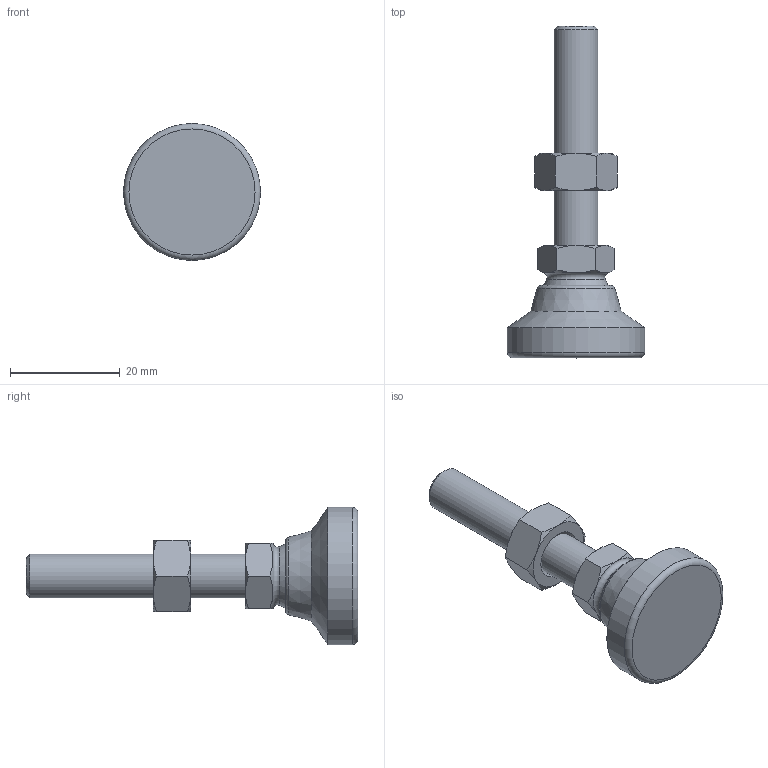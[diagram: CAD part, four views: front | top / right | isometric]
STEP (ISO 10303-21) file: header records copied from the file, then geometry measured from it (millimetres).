
FILE_DESCRIPTION( ( 'STEP AP214' ), ' ' );
FILE_NAME( 'O:/ganter_2015/teil_2/2_5/gn343_2/gn343_2_ks/Levelling foot with threaded stud GN 343.2-25-M8-40-KS-(0).stp', '2015-10-26T09:09:15', ( '' ), ( '' ), ' ', 'PARTsolutions', ' ' );
FILE_SCHEMA( ( 'AUTOMOTIVE_DESIGN { 1 0 10303 214 1 1 1 1 }' ) );
Length unit declared in the file: millimetre
Products named in the file (4): Levelling foot with threaded stud GN 343.2-25-M8-40-KS-(0); _Levelling foot with threaded stud GN 343.2-25-M8-40-KS-(0)_foot; _Gelenkfuss mit Schraube GN 343.2-25-M8-40-KS-(0)_screw; _GLevelling foot with threaded stud GN 343.2-25-M8-40-KS-(0)_nut
Assembly tree (3 placements, depth 2):
  Levelling foot with threaded stud GN 343.2-25-M8-40-KS-(0)
    _Levelling foot with threaded stud GN 343.2-25-M8-40-KS-(0)_foot
    _Gelenkfuss mit Schraube GN 343.2-25-M8-40-KS-(0)_screw
    _GLevelling foot with threaded stud GN 343.2-25-M8-40-KS-(0)_nut
Bounding box: 25 x 60.5 x 25 mm (x, y, z)
Volume: 8143.4 mm3; surface area: 4218.3 mm2
Topology: 3 solids, 3 shells, 50 faces, 107 edges, 63 vertices
Faces by surface type: cone 24, plane 18, torus 3, cylinder 3, sphere 2
Full cylindrical faces by diameter (mm): 6.647 x1, 8 x1, 25 x1
Entity records: 1858 total; most frequent: CARTESIAN_POINT 452, DIRECTION 188, ORIENTED_EDGE 176, AXIS2_PLACEMENT_3D 88, EDGE_CURVE 88, EDGE_LOOP 66, VERTEX_POINT 60, FACE_OUTER_BOUND 56
